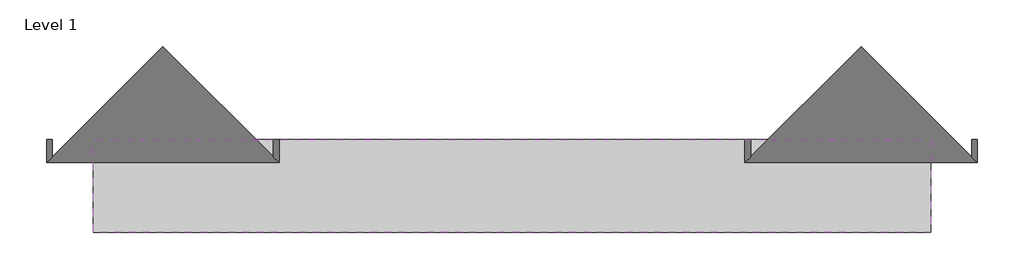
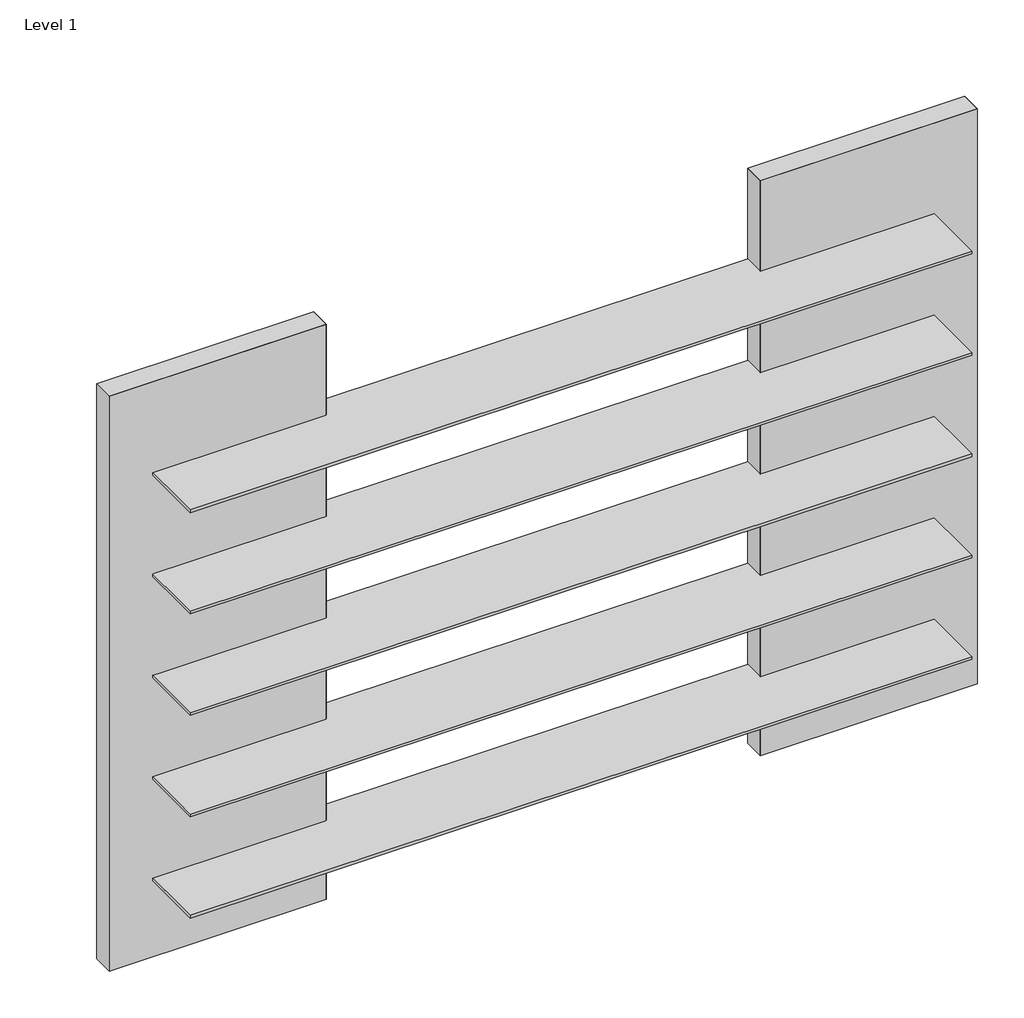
# One storey: 7 proxies.
"""IFC4 building model written with IfcOpenShell, lengths in millimetres."""

from ifc_helpers import new_model, si_unit, origin, place, context, project, spatial, transform, mapped, element, save
from components import generic_models_cb9771f0, generic_models_85b25a52

model = new_model("IFC4")

# Units and contexts
model_context = context("Model", 3, world=origin())
ifc_project = project(units=[si_unit("LENGTHUNIT", "METRE", prefix="MILLI")], contexts=[model_context])

# Site, building, storey
site = spatial("IfcSite", under=ifc_project)
building = spatial("IfcBuilding", under=site)
storey = spatial("IfcBuildingStorey", under=building, Name="Level 1", Elevation=0.0)

# Proxies
placement = place(None, origin())
generic_models_shape = generic_models_cb9771f0(model_context)
element("IfcBuildingElementProxy", 1, Name="AERO^WALL HUNG_SHELF STORAGE-SHELF", ObjectType="AERO^WALL HUNG_SHELF STORAGE-SHELF", at=placement, inside=storey, context=model_context, shape_type="MappedRepresentation", body=[
    mapped(generic_models_shape, transform((152.4, -304.8, 1382.7125), x_axis=(1.0, 0.0, 0.0), y_axis=(0.0, 0.0, 1.0), z_axis=(0.0, -1.0, 0.0))),
])
element("IfcBuildingElementProxy", 2, Name="AERO^WALL HUNG_SHELF STORAGE-SHELF", ObjectType="AERO^WALL HUNG_SHELF STORAGE-SHELF", at=placement, inside=storey, context=model_context, shape_type="MappedRepresentation", body=[
    mapped(generic_models_shape, transform((152.4, -304.8, 630.2375), x_axis=(1.0, 0.0, 0.0), y_axis=(0.0, 0.0, 1.0), z_axis=(0.0, -1.0, 0.0))),
])
element("IfcBuildingElementProxy", 3, Name="AERO^WALL HUNG_SHELF STORAGE-SHELF", ObjectType="AERO^WALL HUNG_SHELF STORAGE-SHELF", at=placement, inside=storey, context=model_context, shape_type="MappedRepresentation", body=[
    mapped(generic_models_shape, transform((152.4, -304.8, 1006.475), x_axis=(1.0, 0.0, 0.0), y_axis=(0.0, 0.0, 1.0), z_axis=(0.0, -1.0, 0.0))),
])
element("IfcBuildingElementProxy", 4, Name="AERO^WALL HUNG_SHELF STORAGE-SHELF", ObjectType="AERO^WALL HUNG_SHELF STORAGE-SHELF", at=placement, inside=storey, context=model_context, shape_type="MappedRepresentation", body=[
    mapped(generic_models_shape, transform((152.4, -304.8, 254.0), x_axis=(1.0, 0.0, 0.0), y_axis=(0.0, 0.0, 1.0), z_axis=(0.0, -1.0, 0.0))),
])
element("IfcBuildingElementProxy", 5, Name="AERO^WALL HUNG_SHELF STORAGE-SHELF", ObjectType="AERO^WALL HUNG_SHELF STORAGE-SHELF", at=placement, inside=storey, context=model_context, shape_type="MappedRepresentation", body=[
    mapped(generic_models_shape, transform((152.4, -304.8, 1758.95), x_axis=(1.0, 0.0, 0.0), y_axis=(0.0, 0.0, 1.0), z_axis=(0.0, -1.0, 0.0))),
])
generic_models_2_shape = generic_models_85b25a52(model_context)
element("IfcBuildingElementProxy", 6, Name="AERO^WALL HUNG_SHELF STORAGE-WALL PARTS SOLID", ObjectType="AERO^WALL HUNG_SHELF STORAGE-WALL PARTS SOLID", at=placement, inside=storey, context=model_context, shape_type="MappedRepresentation", body=[
    mapped(generic_models_2_shape, transform((0.0, -57.15, 0.0), x_axis=(1.0, 0.0, 0.0), y_axis=(0.0, 0.0, 1.0), z_axis=(0.0, -1.0, 0.0))),
])
element("IfcBuildingElementProxy", 7, Name="AERO^WALL HUNG_SHELF STORAGE-WALL PARTS SOLID", ObjectType="AERO^WALL HUNG_SHELF STORAGE-WALL PARTS SOLID", at=placement, inside=storey, context=model_context, shape_type="MappedRepresentation", body=[
    mapped(generic_models_2_shape, transform((2286.0, -57.15, 0.0), x_axis=(1.0, 0.0, 0.0), y_axis=(0.0, 0.0, 1.0), z_axis=(0.0, -1.0, 0.0))),
])

save(model, "model.ifc")
